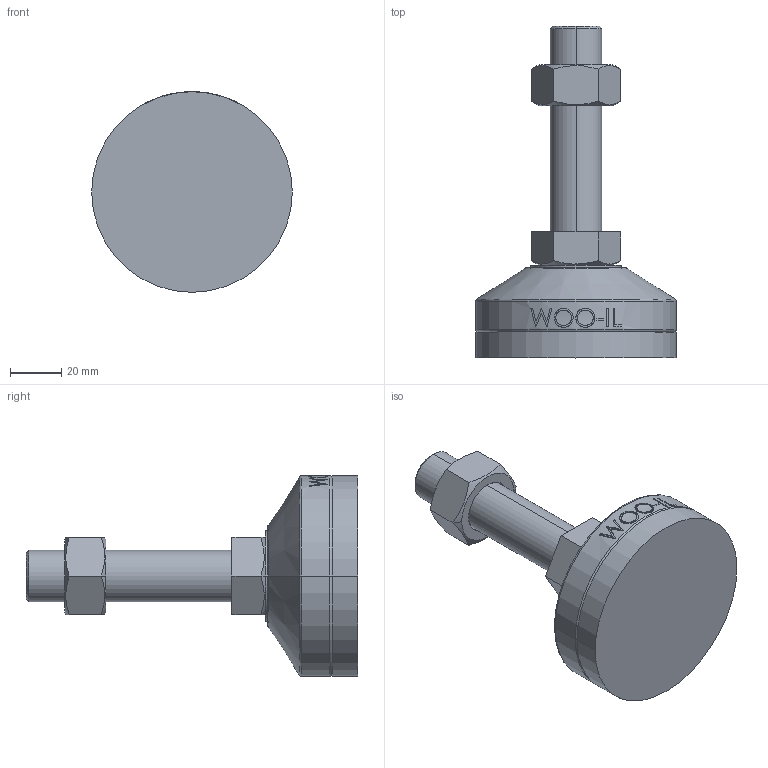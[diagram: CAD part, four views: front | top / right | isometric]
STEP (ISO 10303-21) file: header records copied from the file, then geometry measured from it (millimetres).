
FILE_DESCRIPTION (( 'STEP AP214' ), '1' );
FILE_NAME ('MFR78-M20-80.step', '2021-01-13T05:39:57', ( '' ), ( '' ), 'SwSTEP 2.0', 'SolidWorks 2019', '' );
FILE_SCHEMA (( 'AUTOMOTIVE_DESIGN' ));
Length unit declared in the file: millimetre
Products named in the file (2): MFR78-M20-80
Bounding box: 78 x 129 x 78 mm (x, y, z)
Volume: 185694.2 mm3; surface area: 27499.6 mm2
Topology: 3 solids, 3 shells, 102 faces, 235 edges, 150 vertices
Faces by surface type: plane 48, cylinder 18, bspline 16, cone 14, torus 6
Entity records: 4428 total; most frequent: CARTESIAN_POINT 2173, ORIENTED_EDGE 470, DIRECTION 415, EDGE_CURVE 235, AXIS2_PLACEMENT_3D 158, VERTEX_POINT 150, EDGE_LOOP 115, FACE_OUTER_BOUND 102
